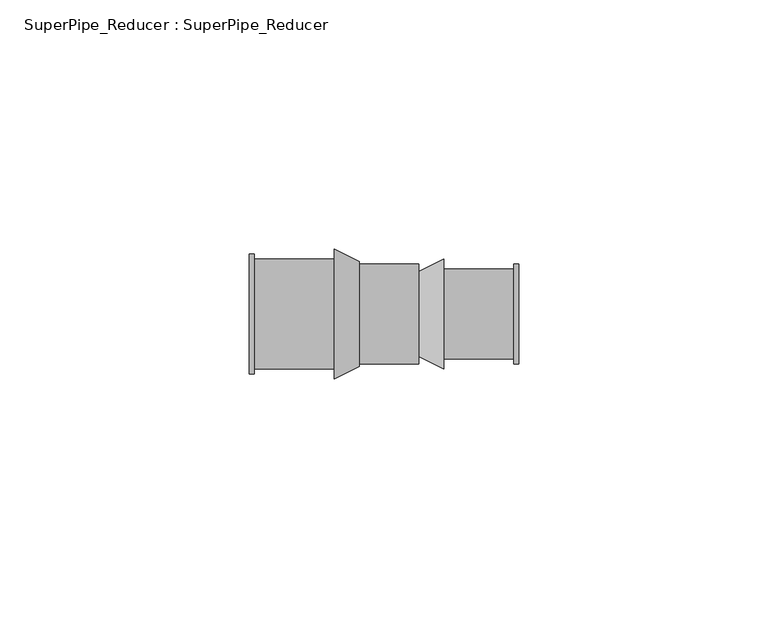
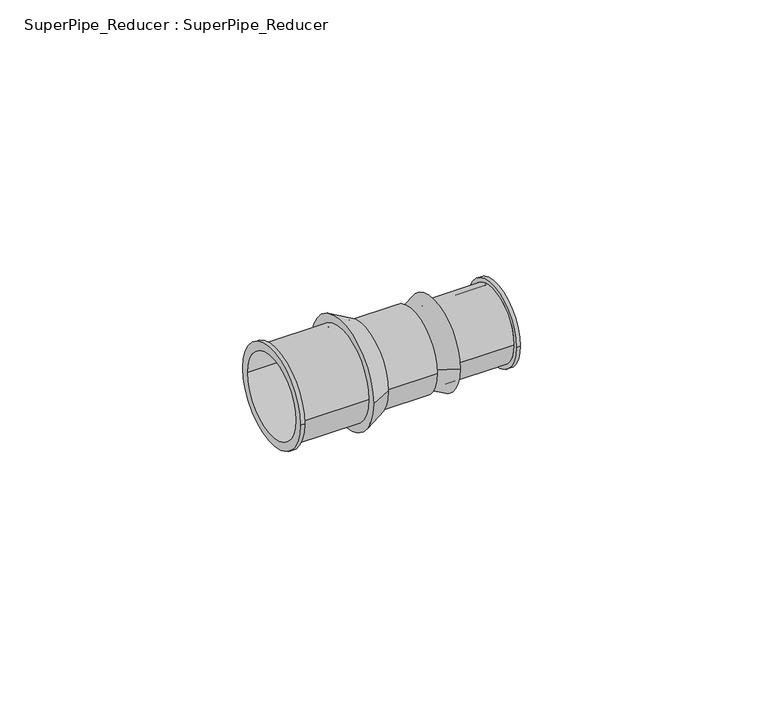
"""IFC4 building model written with IfcOpenShell, lengths in millimetres: pipe fitting geometry, SuperPipe_Reducer : SuperPipe_Reducer."""

from ifc_helpers import new_model, si_unit, point, frame, origin, origin_2d, place, context, project, spatial, polyline, circle_curve, trimmed, segment, composite_curve, outline, extrude, source, transform, mapped, element, save
from ifc_brep_helpers import plane_surface, cylinder_surface, revolved_surface, advanced_brep


def superpipe_reducer_superpipe_reducer_d10aa00e(model_context):
    return source(origin(), model_context, "Body", "SolidModel", [
        advanced_brep(
        [(12.0, -9.0, 0.0), (12.0, 9.0, 0.0), (12.0, -8.0, 0.0), (12.0, 8.0, 0.0), (27.0, -10.0, 0.0), (27.0, 10.0, 0.0), (27.0, -8.0, 0.0), (27.0, 8.0, 0.0), (26.0, -9.0, 0.0), (26.0, 9.0, 0.0), (26.0, -8.0, 0.0), (26.0, 8.0, 0.0), (26.0, -10.0, 0.0), (26.0, 10.0, 0.0)],
        [
            (0, 1, circle_curve(frame((12.0, 0.0, 0.0), z_axis=(-1.0, 0.0, 0.0), x_axis=(0.0, 1.0, 0.0)), 9.0)),
            (1, 0, circle_curve(frame((12.0, 0.0, 0.0), z_axis=(-1.0, 0.0, 0.0), x_axis=(0.0, 1.0, 0.0)), 9.0)),
            (2, 3, circle_curve(frame((12.0, 0.0, 0.0), z_axis=(1.0, 0.0, 0.0), x_axis=(0.0, 1.0, 0.0)), 8.0)),
            (3, 2, circle_curve(frame((12.0, 0.0, 0.0), z_axis=(1.0, 0.0, 0.0), x_axis=(0.0, 1.0, 0.0)), 8.0)),
            (4, 5, circle_curve(frame((27.0, 0.0, 0.0), z_axis=(1.0, 0.0, 0.0), x_axis=(0.0, 1.0, 0.0)), 10.0)),
            (5, 4, circle_curve(frame((27.0, 0.0, 0.0), z_axis=(1.0, 0.0, 0.0), x_axis=(0.0, 1.0, 0.0)), 10.0)),
            (6, 7, circle_curve(frame((27.0, 0.0, 0.0), z_axis=(-1.0, 0.0, 0.0), x_axis=(0.0, 1.0, 0.0)), 8.0)),
            (7, 6, circle_curve(frame((27.0, 0.0, 0.0), z_axis=(-1.0, 0.0, 0.0), x_axis=(0.0, 1.0, 0.0)), 8.0)),
            (0, 8),
            (8, 9, circle_curve(frame((26.0, 0.0, 0.0), z_axis=(-1.0, 0.0, 0.0), x_axis=(0.0, 1.0, 0.0)), 9.0)),
            (9, 1),
            (9, 8, circle_curve(frame((26.0, 0.0, 0.0), z_axis=(-1.0, 0.0, 0.0), x_axis=(0.0, 1.0, 0.0)), 9.0)),
            (2, 10),
            (10, 6),
            (7, 11),
            (11, 3),
            (12, 13, circle_curve(frame((26.0, 0.0, 0.0), z_axis=(-1.0, 0.0, 0.0), x_axis=(0.0, 1.0, 0.0)), 10.0)),
            (13, 12, circle_curve(frame((26.0, 0.0, 0.0), z_axis=(-1.0, 0.0, 0.0), x_axis=(0.0, 1.0, 0.0)), 10.0)),
            (12, 4),
            (5, 13),
        ],
        [
            plane_surface(frame((12.0, 0.0, 0.0), z_axis=(-1.0, 0.0, 0.0), x_axis=(0.0, 0.0, 1.0))),
            plane_surface(frame((27.0, 0.0, 0.0), z_axis=(1.0, 0.0, 0.0), x_axis=(0.0, 0.0, 1.0))),
            cylinder_surface(frame((12.0, 0.0, 0.0), z_axis=(-1.0, 0.0, 0.0), x_axis=(0.0, 1.0, 0.0)), 9.0),
            revolved_surface(polyline([(27.0, 8.0, 0.0), (12.0, 8.0, 0.0)]), (12.0, 0.0, 0.0), (1.0, 0.0, 0.0)),
            plane_surface(frame((26.0, 0.0, 0.0), z_axis=(-1.0, 0.0, 0.0), x_axis=(0.0, 0.0, 1.0))),
            cylinder_surface(frame((26.0, 0.0, 0.0), z_axis=(-1.0, 0.0, 0.0), x_axis=(0.0, 1.0, 0.0)), 10.0),
        ],
        [
            (0, [[1, 2], [3, 4]]),
            (1, [[5, 6], [7, 8]]),
            (2, [[-1, 9, 10, 11]]),
            (2, [[-2, -11, 12, -9]]),
            (3, [[-3, 13, 14, -8, 15, 16]]),
            (3, [[-4, -16, -15, -7, -14, -13]]),
            (4, [[17, 18], [-10, -12]]),
            (5, [[-17, 19, -6, 20]]),
            (5, [[-18, -20, -5, -19]]),
        ],
    ),
        advanced_brep(
        [(-27.0, -12.0, 0.0), (-27.0, 12.0, 0.0), (-27.0, -10.0, 0.0), (-27.0, 10.0, 0.0), (-10.0, -11.0, 0.0), (-10.0, 11.0, 0.0), (-10.0, -10.0, 0.0), (-10.0, 10.0, 0.0), (-26.0, -10.0, 0.0), (-26.0, 10.0, 0.0), (-26.0, 11.0, 0.0), (-26.0, -11.0, 0.0), (-26.0, -12.0, 0.0), (-26.0, 12.0, 0.0)],
        [
            (0, 1, circle_curve(frame((-27.0, 0.0, 0.0), z_axis=(-1.0, 0.0, 0.0), x_axis=(0.0, 1.0, 0.0)), 12.0)),
            (1, 0, circle_curve(frame((-27.0, 0.0, 0.0), z_axis=(-1.0, 0.0, 0.0), x_axis=(0.0, 1.0, 0.0)), 12.0)),
            (2, 3, circle_curve(frame((-27.0, 0.0, 0.0), z_axis=(1.0, 0.0, 0.0), x_axis=(0.0, 1.0, 0.0)), 10.0)),
            (3, 2, circle_curve(frame((-27.0, 0.0, 0.0), z_axis=(1.0, 0.0, 0.0), x_axis=(0.0, 1.0, 0.0)), 10.0)),
            (4, 5, circle_curve(frame((-10.0, 0.0, 0.0), z_axis=(1.0, 0.0, 0.0), x_axis=(0.0, 1.0, 0.0)), 11.0)),
            (5, 4, circle_curve(frame((-10.0, 0.0, 0.0), z_axis=(1.0, 0.0, 0.0), x_axis=(0.0, 1.0, 0.0)), 11.0)),
            (6, 7, circle_curve(frame((-10.0, 0.0, 0.0), z_axis=(-1.0, 0.0, 0.0), x_axis=(0.0, 1.0, 0.0)), 10.0)),
            (7, 6, circle_curve(frame((-10.0, 0.0, 0.0), z_axis=(-1.0, 0.0, 0.0), x_axis=(0.0, 1.0, 0.0)), 10.0)),
            (2, 8),
            (8, 6),
            (7, 9),
            (9, 3),
            (5, 10),
            (10, 11, circle_curve(frame((-26.0, 0.0, 0.0), z_axis=(1.0, 0.0, 0.0), x_axis=(0.0, 1.0, 0.0)), 11.0)),
            (11, 4),
            (11, 10, circle_curve(frame((-26.0, 0.0, 0.0), z_axis=(1.0, 0.0, 0.0), x_axis=(0.0, 1.0, 0.0)), 11.0)),
            (12, 13, circle_curve(frame((-26.0, 0.0, 0.0), z_axis=(1.0, 0.0, 0.0), x_axis=(0.0, 1.0, 0.0)), 12.0)),
            (13, 12, circle_curve(frame((-26.0, 0.0, 0.0), z_axis=(1.0, 0.0, 0.0), x_axis=(0.0, 1.0, 0.0)), 12.0)),
            (0, 12),
            (13, 1),
        ],
        [
            plane_surface(frame((-27.0, 0.0, 0.0), z_axis=(-1.0, 0.0, 0.0), x_axis=(0.0, 0.0, 1.0))),
            plane_surface(frame((-10.0, 0.0, 0.0), z_axis=(1.0, 0.0, 0.0), x_axis=(0.0, 0.0, 1.0))),
            revolved_surface(polyline([(-10.0, 10.0, 0.0), (-27.0, 10.0, 0.0)]), (-27.0, 0.0, 0.0), (1.0, 0.0, 0.0)),
            cylinder_surface(frame((-27.0, 0.0, 0.0), z_axis=(-1.0, 0.0, 0.0), x_axis=(0.0, 1.0, 0.0)), 11.0),
            plane_surface(frame((-26.0, 0.0, 0.0), z_axis=(1.0, 0.0, 0.0), x_axis=(0.0, 0.0, 1.0))),
            cylinder_surface(frame((-27.0, 0.0, 0.0), z_axis=(-1.0, 0.0, 0.0), x_axis=(0.0, 1.0, 0.0)), 12.0),
        ],
        [
            (0, [[1, 2], [3, 4]]),
            (1, [[5, 6], [7, 8]]),
            (2, [[-3, 9, 10, -8, 11, 12]]),
            (2, [[-4, -12, -11, -7, -10, -9]]),
            (3, [[-6, 13, 14, 15]]),
            (3, [[-5, -15, 16, -13]]),
            (4, [[17, 18], [-14, -16]]),
            (5, [[-1, 19, -18, 20]]),
            (5, [[-2, -20, -17, -19]]),
        ],
    ),
        advanced_brep(
        [(12.0, -11.0, 0.0), (12.0, 11.0, 0.0), (12.0, 8.0, 0.0), (12.0, -8.0, 0.0), (7.0, -8.5, 0.0), (7.0, 8.5, 0.0), (7.0, -8.0, 0.0), (7.0, 8.0, 0.0)],
        [
            (0, 1, circle_curve(frame((12.0, 0.0, 0.0), z_axis=(1.0, 0.0, 0.0), x_axis=(0.0, -1.0, 0.0)), 11.0)),
            (1, 0, circle_curve(frame((12.0, 0.0, 0.0), z_axis=(1.0, 0.0, 0.0), x_axis=(0.0, 1.0, 0.0)), 11.0)),
            (2, 3, circle_curve(frame((12.0, 0.0, 0.0), z_axis=(-1.0, 0.0, 0.0), x_axis=(0.0, 1.0, 0.0)), 8.0)),
            (3, 2, circle_curve(frame((12.0, 0.0, 0.0), z_axis=(-1.0, 0.0, 0.0), x_axis=(0.0, 1.0, 0.0)), 8.0)),
            (4, 5, circle_curve(frame((7.0, 0.0, 0.0), z_axis=(-1.0, 0.0, 0.0), x_axis=(0.0, 1.0, 0.0)), 8.5)),
            (5, 4, circle_curve(frame((7.0, 0.0, 0.0), z_axis=(-1.0, 0.0, 0.0), x_axis=(0.0, -1.0, 0.0)), 8.5)),
            (6, 7, circle_curve(frame((7.0, 0.0, 0.0), z_axis=(1.0, 0.0, 0.0), x_axis=(0.0, 1.0, 0.0)), 8.0)),
            (7, 6, circle_curve(frame((7.0, 0.0, 0.0), z_axis=(1.0, 0.0, 0.0), x_axis=(0.0, 1.0, 0.0)), 8.0)),
            (0, 4),
            (5, 1),
            (2, 7),
            (6, 3),
        ],
        [
            plane_surface(frame((12.0, 0.0, 0.0), z_axis=(1.0, 0.0, 0.0), x_axis=(0.0, 0.0, -1.0))),
            plane_surface(frame((7.0, 0.0, 0.0), z_axis=(-1.0, 0.0, 0.0), x_axis=(0.0, 0.0, -1.0))),
            revolved_surface(polyline([(7.0, 8.5, 0.0), (12.0, 11.0, 0.0)]), (-10.0, 0.0, 0.0), (1.0, 0.0, 0.0)),
            revolved_surface(polyline([(7.0, -8.5, 0.0), (12.0, -11.0, 0.0)]), (-10.0, 0.0, 0.0), (1.0, 0.0, 0.0)),
            revolved_surface(polyline([(12.0, 8.0, 0.0), (7.0, 8.0, 0.0)]), (7.0, 0.0, 0.0), (1.0, 0.0, 0.0)),
        ],
        [
            (0, [[1, 2], [3, 4]]),
            (1, [[5, 6], [7, 8]]),
            (2, [[-1, 9, -6, 10]]),
            (3, [[-2, -10, -5, -9]]),
            (4, [[11, -7, 12, -3]]),
            (4, [[-11, -4, -12, -8]]),
        ],
    ),
        advanced_brep(
        [(-5.0, -10.5, 0.0), (-5.0, 10.5, 0.0), (-5.0, 10.0, 0.0), (-5.0, -10.0, 0.0), (-10.0, -13.0, 0.0), (-10.0, 13.0, 0.0), (-10.0, -10.0, 0.0), (-10.0, 10.0, 0.0)],
        [
            (0, 1, circle_curve(frame((-5.0, 0.0, 0.0), z_axis=(1.0, 0.0, 0.0), x_axis=(0.0, -1.0, 0.0)), 10.5)),
            (1, 0, circle_curve(frame((-5.0, 0.0, 0.0), z_axis=(1.0, 0.0, 0.0), x_axis=(0.0, 1.0, 0.0)), 10.5)),
            (2, 3, circle_curve(frame((-5.0, 0.0, 0.0), z_axis=(-1.0, 0.0, 0.0), x_axis=(0.0, 1.0, 0.0)), 10.0)),
            (3, 2, circle_curve(frame((-5.0, 0.0, 0.0), z_axis=(-1.0, 0.0, 0.0), x_axis=(0.0, 1.0, 0.0)), 10.0)),
            (4, 5, circle_curve(frame((-10.0, 0.0, 0.0), z_axis=(-1.0, 0.0, 0.0), x_axis=(0.0, 1.0, 0.0)), 13.0)),
            (5, 4, circle_curve(frame((-10.0, 0.0, 0.0), z_axis=(-1.0, 0.0, 0.0), x_axis=(0.0, -1.0, 0.0)), 13.0)),
            (6, 7, circle_curve(frame((-10.0, 0.0, 0.0), z_axis=(1.0, 0.0, 0.0), x_axis=(0.0, 1.0, 0.0)), 10.0)),
            (7, 6, circle_curve(frame((-10.0, 0.0, 0.0), z_axis=(1.0, 0.0, 0.0), x_axis=(0.0, 1.0, 0.0)), 10.0)),
            (0, 4),
            (5, 1),
            (2, 7),
            (6, 3),
        ],
        [
            plane_surface(frame((-5.0, 0.0, 0.0), z_axis=(1.0, 0.0, 0.0), x_axis=(0.0, 0.0, -1.0))),
            plane_surface(frame((-10.0, 0.0, 0.0), z_axis=(-1.0, 0.0, 0.0), x_axis=(0.0, 0.0, -1.0))),
            revolved_surface(polyline([(-5.0, -10.5, 0.0), (-10.0, -13.0, 0.0)]), (16.0, 0.0, 0.0), (-1.0, 0.0, 0.0)),
            revolved_surface(polyline([(-5.0, 10.5, 0.0), (-10.0, 13.0, 0.0)]), (16.0, 0.0, 0.0), (-1.0, 0.0, 0.0)),
            revolved_surface(polyline([(-5.0, 10.0, 0.0), (-10.0, 10.0, 0.0)]), (-10.0, 0.0, 0.0), (1.0, 0.0, 0.0)),
        ],
        [
            (0, [[1, 2], [3, 4]]),
            (1, [[5, 6], [7, 8]]),
            (2, [[-1, 9, -6, 10]]),
            (3, [[-2, -10, -5, -9]]),
            (4, [[11, -7, 12, -3]]),
            (4, [[-11, -4, -12, -8]]),
        ],
    ),
        extrude(outline(composite_curve([segment(trimmed(circle_curve(origin_2d(), 10.0), [point((-10.0, 0.0))], [point((10.0, 0.0))], False, "CARTESIAN"), True, "CONTINUOUS"), segment(trimmed(circle_curve(origin_2d(), 10.0), [point((10.0, 0.0))], [point((-10.0, 0.0))], False, "CARTESIAN"), True, "CONTINUOUS")], self_intersect=False)), frame((-5.0, 0.0, 0.0), z_axis=(1.0, 0.0, 0.0), x_axis=(0.0, 1.0, 0.0)), (0.0, 0.0, 1.0), 12.0),
    ])


if __name__ == "__main__":
    model = new_model("IFC4")
    model_context = context("Model", 3, world=origin())
    ifc_project = project(units=[si_unit("LENGTHUNIT", "METRE", prefix="MILLI")], contexts=[model_context])
    site = spatial("IfcSite", under=ifc_project)
    building = spatial("IfcBuilding", under=site)
    placement = place(None, origin())
    superpipe_reducer_superpipe_reducer_shape = superpipe_reducer_superpipe_reducer_d10aa00e(model_context)
    element("IfcPipeFitting", 1, ObjectType="SuperPipe_Reducer : SuperPipe_Reducer", at=placement, inside=building, context=model_context, shape_type="MappedRepresentation", body=[
        mapped(superpipe_reducer_superpipe_reducer_shape, transform((0.0, 0.0, 0.0), x_axis=(1.0, 0.0, 0.0), y_axis=(0.0, 1.0, 0.0), z_axis=(0.0, 0.0, 1.0))),
    ])
    save(model, "model.ifc")
